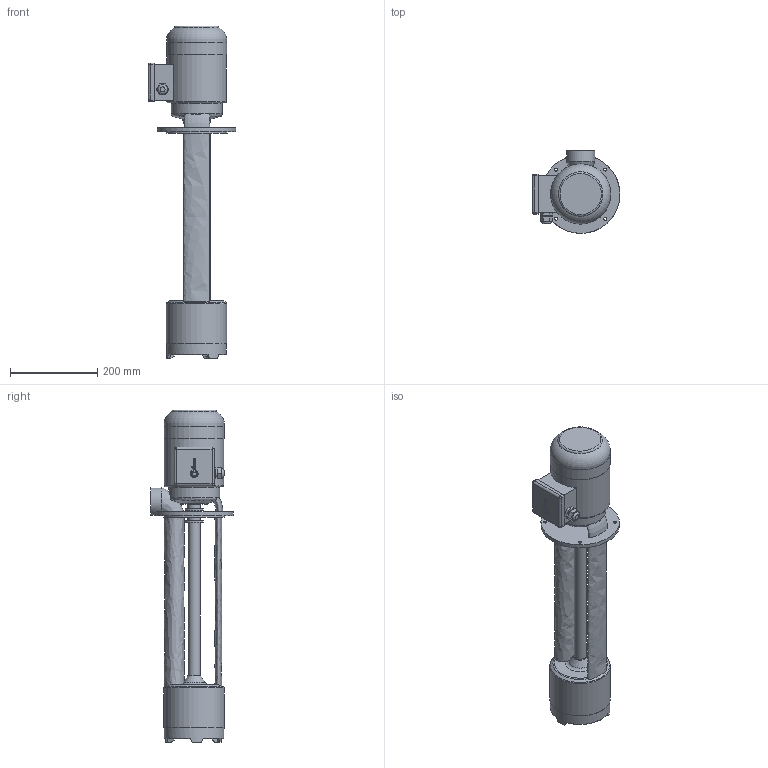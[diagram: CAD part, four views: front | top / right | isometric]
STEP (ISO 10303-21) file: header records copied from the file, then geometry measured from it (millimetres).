
FILE_DESCRIPTION(/* description */ ('Unknown'),/* implementation_level */ '2;1');
FILE_NAME(/* name */ 'EP 153-520',/* time_stamp */ '2023-03-30T13:43:37+03:00',/* author */ ('Unknown'),/* organization */ ('Unknown'),/* preprocessor_version */ 'ST-DEVELOPER v16.7',/* originating_system */ 'DEX',/* authorisation */ $);
FILE_SCHEMA (('AUTOMOTIVE_DESIGN {1 0 10303 214 3 1 1}'));
Length unit declared in the file: millimetre
Products named in the file (1): EP 153-520
Bounding box: 201.5 x 190 x 762.36 mm (x, y, z)
Volume: 6945594.6 mm3; surface area: 433179.8 mm2
Topology: 1 solids, 1 shells, 264 faces, 670 edges, 431 vertices
Faces by surface type: plane 91, bspline 81, cylinder 56, torus 26, cone 10
Full cylindrical faces by diameter (mm): 7 x4, 17 x1, 21.5 x1, 28 x1, 29 x3, 30 x1, 42 x2, 44 x1, 48 x1, 62 x1, 94 x1, 116.969 x1, 136.473 x1, 137 x1, 137.994 x1, 139 x1, 140 x1, 180 x1
Entity records: 11309 total; most frequent: CARTESIAN_POINT 5675, ORIENTED_EDGE 1204, DIRECTION 957, EDGE_CURVE 602, VERTEX_POINT 415, AXIS2_PLACEMENT_3D 364, EDGE_LOOP 355, FACE_BOUND 355
